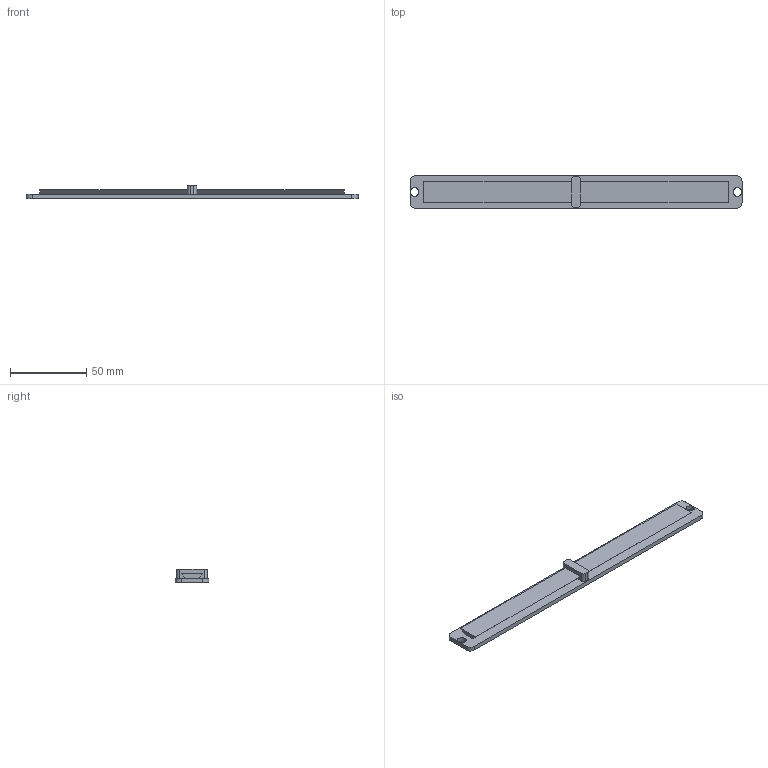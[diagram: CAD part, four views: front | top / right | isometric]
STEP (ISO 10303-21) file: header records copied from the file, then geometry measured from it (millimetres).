
FILE_DESCRIPTION(('Open CASCADE Model'),'2;1');
FILE_NAME('Open CASCADE Shape Model','2026-09-13T15:26:29',('Author'),( 'Open CASCADE'),'Open CASCADE STEP processor 7.9','build123d', 'Unknown');
FILE_SCHEMA(('AUTOMOTIVE_DESIGN { 1 0 10303 214 1 1 1 1 }'));
Length unit declared in the file: millimetre
Products named in the file (2): =>[0:1:1:2]; COMPOUND
Assembly tree (1 placements, depth 2):
  =>[0:1:1:2]
    COMPOUND
Bounding box: 218 x 22 x 9 mm (x, y, z)
Volume: 21300.4 mm3; surface area: 14092.5 mm2
Topology: 1 solids, 1 shells, 29 faces, 78 edges, 52 vertices
Faces by surface type: plane 19, cylinder 10
Full cylindrical faces by diameter (mm): 5.6 x2
Entity records: 1974 total; most frequent: CARTESIAN_POINT 377, DIRECTION 296, LINE 182, VECTOR 182, ORIENTED_EDGE 156, PCURVE 156, DEFINITIONAL_REPRESENTATION 156, EDGE_CURVE 78
